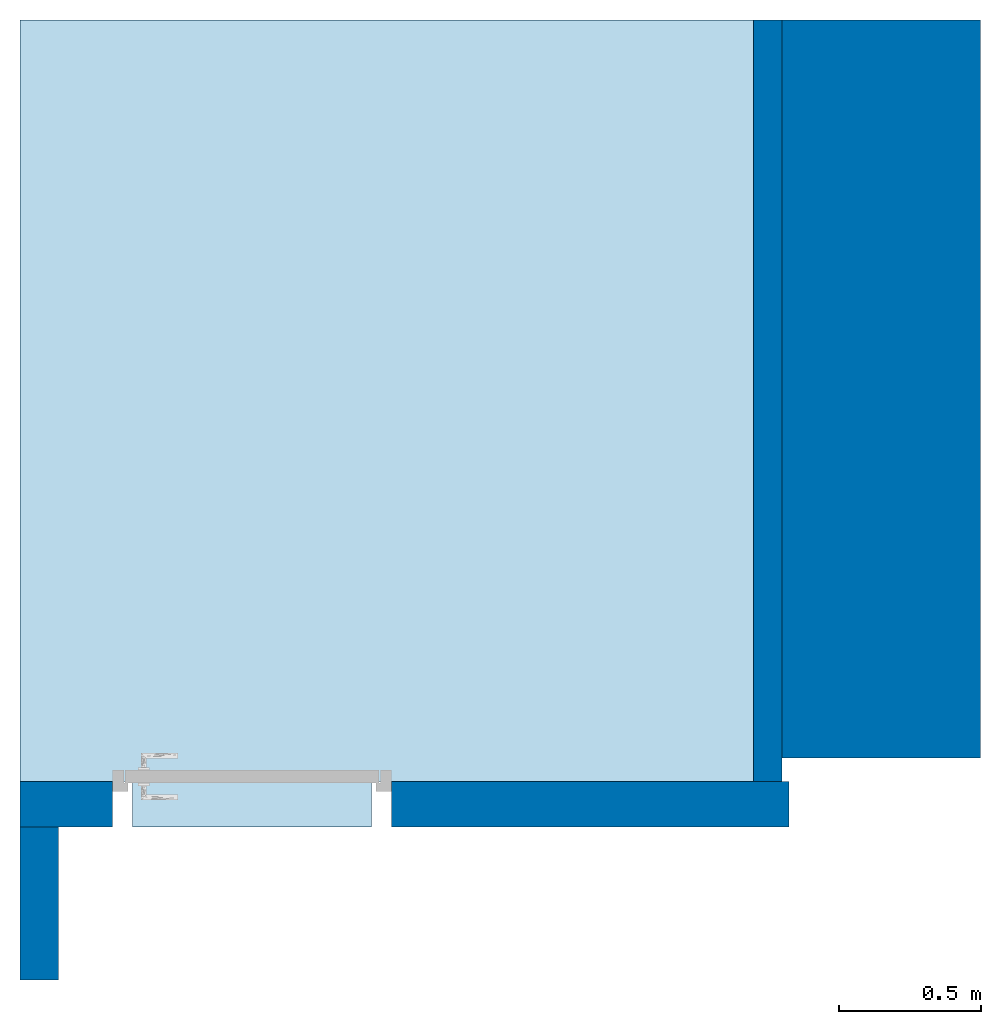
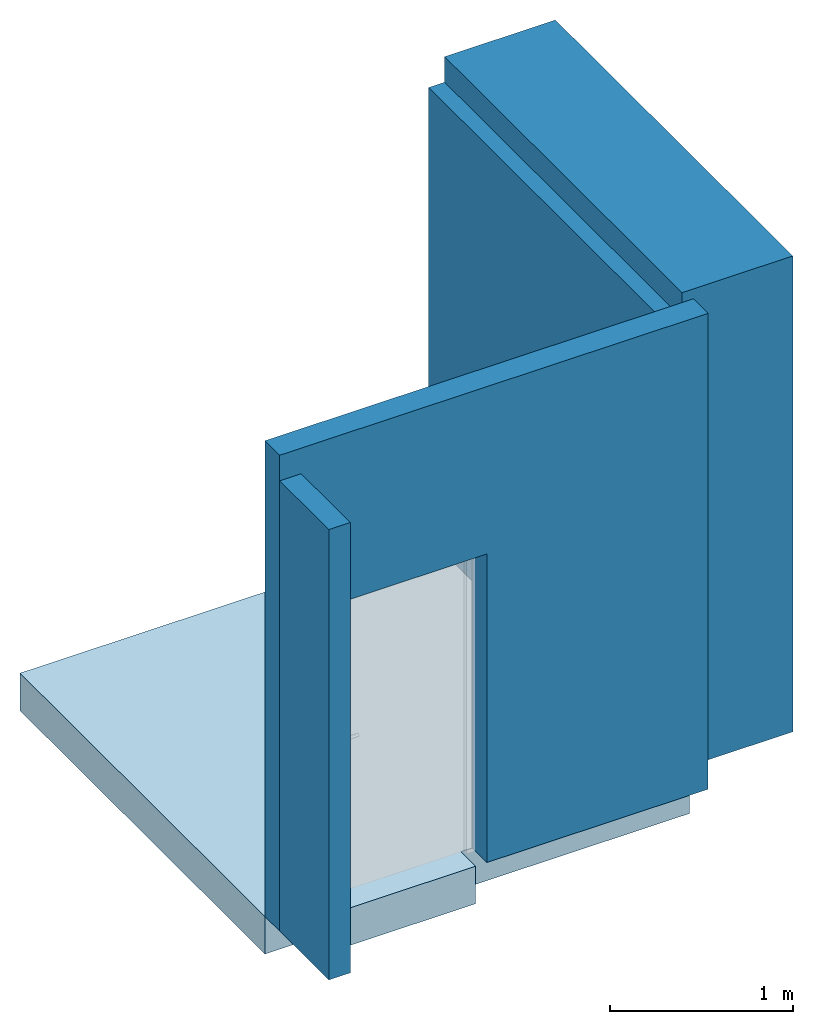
# One storey, incomplete: 4 walls, 1 slab, 1 opening.
"""IFC2X3 building model written with IfcOpenShell, lengths in metres."""

from ifc_helpers import new_model, entity, si_unit, converted_unit, derived_unit, direction, frame, frame_2d, origin, place, context, subcontext, project, spatial, polyline, rectangle, outline, extrude, material, layer, layer_set, layer_usage, type_object, element, save


model = new_model("IFC2X3")

# Units and contexts
model_context = context("Model", 3, precision=1e-05, world=origin(), true_north=direction((6.12303176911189e-17, 1.0)))
plan_context = context("Plan", 3, precision=1e-05, world=origin(), true_north=direction((6.12303176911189e-17, 1.0)))
body_context = subcontext(model_context, "Body", "Model", "MODEL_VIEW")
ifc_project = project(units=[si_unit("LENGTHUNIT", "METRE"), si_unit("AREAUNIT", "SQUARE_METRE"), si_unit("VOLUMEUNIT", "CUBIC_METRE"), converted_unit("PLANEANGLEUNIT", "DEGREE", entity("IfcRatioMeasure", 0.0174532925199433), si_unit("PLANEANGLEUNIT", "RADIAN"), dimensions=[0, 0, 0, 0, 0, 0, 0]), si_unit("MASSUNIT", "GRAM", prefix="KILO"), derived_unit("MASSDENSITYUNIT", [(si_unit("MASSUNIT", "GRAM", prefix="KILO"), 1), (si_unit("LENGTHUNIT", "METRE"), -3)]), derived_unit("MOMENTOFINERTIAUNIT", [(si_unit("LENGTHUNIT", "METRE"), 4)]), si_unit("TIMEUNIT", "SECOND"), si_unit("FREQUENCYUNIT", "HERTZ"), si_unit("THERMODYNAMICTEMPERATUREUNIT", "DEGREE_CELSIUS"), derived_unit("THERMALTRANSMITTANCEUNIT", [(si_unit("MASSUNIT", "GRAM", prefix="KILO"), 1), (si_unit("THERMODYNAMICTEMPERATUREUNIT", "KELVIN"), -1), (si_unit("TIMEUNIT", "SECOND"), -3)]), derived_unit("VOLUMETRICFLOWRATEUNIT", [(si_unit("LENGTHUNIT", "METRE"), 3), (si_unit("TIMEUNIT", "SECOND"), -1)]), derived_unit("MASSFLOWRATEUNIT", [(si_unit("MASSUNIT", "GRAM", prefix="KILO"), 1), (si_unit("TIMEUNIT", "SECOND"), -1)]), derived_unit("ROTATIONALFREQUENCYUNIT", [(si_unit("TIMEUNIT", "SECOND"), -1)]), si_unit("ELECTRICCURRENTUNIT", "AMPERE"), si_unit("ELECTRICVOLTAGEUNIT", "VOLT"), si_unit("POWERUNIT", "WATT"), si_unit("FORCEUNIT", "NEWTON", prefix="KILO"), si_unit("ILLUMINANCEUNIT", "LUX"), si_unit("LUMINOUSFLUXUNIT", "LUMEN"), si_unit("LUMINOUSINTENSITYUNIT", "CANDELA"), derived_unit("USERDEFINED", [(si_unit("MASSUNIT", "GRAM", prefix="KILO"), -1), (si_unit("LENGTHUNIT", "METRE"), -2), (si_unit("TIMEUNIT", "SECOND"), 3), (si_unit("LUMINOUSFLUXUNIT", "LUMEN"), 1)]), derived_unit("SOUNDPOWERUNIT", [(si_unit("MASSUNIT", "GRAM", prefix="KILO"), 1), (si_unit("LENGTHUNIT", "METRE"), 2), (si_unit("TIMEUNIT", "SECOND"), -3)]), derived_unit("SOUNDPRESSUREUNIT", [(si_unit("MASSUNIT", "GRAM", prefix="KILO"), 1), (si_unit("LENGTHUNIT", "METRE"), -1), (si_unit("TIMEUNIT", "SECOND"), -2)]), derived_unit("LINEARVELOCITYUNIT", [(si_unit("LENGTHUNIT", "METRE"), 1), (si_unit("TIMEUNIT", "SECOND"), -1)]), si_unit("PRESSUREUNIT", "PASCAL"), derived_unit("USERDEFINED", [(si_unit("LENGTHUNIT", "METRE"), -2), (si_unit("MASSUNIT", "GRAM", prefix="KILO"), 1), (si_unit("TIMEUNIT", "SECOND"), -2)]), derived_unit("LINEARFORCEUNIT", [(si_unit("MASSUNIT", "GRAM", prefix="KILO"), 1), (si_unit("LENGTHUNIT", "METRE"), 1), (si_unit("TIMEUNIT", "SECOND"), -2), (si_unit("LENGTHUNIT", "METRE"), -1)]), derived_unit("PLANARFORCEUNIT", [(si_unit("MASSUNIT", "GRAM", prefix="KILO"), 1), (si_unit("LENGTHUNIT", "METRE"), 1), (si_unit("TIMEUNIT", "SECOND"), -2), (si_unit("LENGTHUNIT", "METRE"), -2)])], contexts=[model_context, plan_context])

# Site, building, storey
site_placement = place(None, frame((-11.0823275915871, 23.8300534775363, 0.0)))
site = spatial("IfcSite", under=ifc_project, at=site_placement, Name="Default", CompositionType="ELEMENT")
building_placement = place(site_placement, origin())
building = spatial("IfcBuilding", under=site, at=building_placement, Name="Englische Kirche", CompositionType="ELEMENT")
storey_placement = place(building_placement, frame((0.0, 0.0, 5.11)))
storey = spatial("IfcBuildingStorey", under=building, at=storey_placement, Name="Ebene 3 Belfry FFL Stage 2 1888", CompositionType="ELEMENT", Elevation=5.11)

# Slab
ifc_material_1 = material(Name="Ortbeton - bewehrt")
ifc_layer_1 = layer(ifc_material_1, 0.25)
ifc_layer_set_1 = layer_set([ifc_layer_1], Name="Geschossdecke:STB 250")
ifc_layer_usage_1 = layer_usage(ifc_layer_set_1, "AXIS3", "POSITIVE", 0.0)
slab_type = type_object("IfcSlabType", Name="Geschossdecke:STB 250", PredefinedType="FLOOR", material=ifc_layer_set_1)
slab_placement = place(storey_placement, origin())
element("IfcSlab", 1, at=slab_placement, inside=storey, type_object=slab_type, material=ifc_layer_usage_1, Name="Geschossdecke:STB 250", ObjectType="Geschossdecke:STB 250", PredefinedType="FLOOR", context=body_context, shape_type="SweptSolid", body=[
    extrude(outline(polyline([(-0.628499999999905, -1.07637499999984), (2.04549999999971, -1.07637499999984), (2.04549999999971, 1.59912499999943), (-0.628499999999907, 1.59912499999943), (-0.628499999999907, 0.158625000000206), (-0.788499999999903, 0.158625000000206), (-0.788499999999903, -0.681374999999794), (-0.628499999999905, -0.681374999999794), (-0.628499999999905, -1.07637499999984)])), frame((0.784832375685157, 12.5702189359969, 0.0), z_axis=(0.0, 0.0, -1.0), x_axis=(0.0, 1.0, 0.0)), (0.0, 0.0, 1.0), 0.25),
])

# Wall
ifc_material_2 = material(Name="Mauerwerk - Quoin Brickwerk")
ifc_layer_2 = layer(ifc_material_2, 0.448)
ifc_material_3 = material(Name="Mauerwerk - Sichtmauerwerk_72x265 english bond Stage2")
ifc_layer_3 = layer(ifc_material_3, 0.25)
ifc_layer_set_2 = layer_set([ifc_layer_2, ifc_layer_3], Name="Basiswand:Ziegel 698-farbig 1sp 72x265 English bond quoins Tower Phase 2")
ifc_layer_usage_2 = layer_usage(ifc_layer_set_2, "AXIS2", "NEGATIVE", 0.349)
wall_type_1 = type_object("IfcWallType", Name="Basiswand:Ziegel 698-farbig 1sp 72x265 English bond quoins Tower Phase 2", PredefinedType="STANDARD", material=ifc_layer_set_2)
wall_1_placement = place(storey_placement, frame((2.73295737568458, 14.6157189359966, 0.0), z_axis=(0.0, 0.0, 1.0), x_axis=(0.0, -1.0, 0.0)))
element("IfcWallStandardCase", 2, at=wall_1_placement, inside=storey, type_object=wall_type_1, material=ifc_layer_usage_2, Name="Basiswand:Ziegel 698-farbig 1sp 72x265 English bond quoins Tower Phase 2", ObjectType="Basiswand:Ziegel 698-farbig 1sp 72x265 English bond quoins Tower Phase 2", context=body_context, shape_type="SweptSolid", body=[
    extrude(rectangle(XDim=2.59199995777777, YDim=0.698, at=frame_2d((1.29599997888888, -1.38777878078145e-16), x_axis=(-1.0, 0.0))), origin(), (0.0, 0.0, 1.0), 3.17),
])

# Wall, opening
ifc_material_4 = material(Name="Mauerwerk - Kalkputz-white")
ifc_layer_4 = layer(ifc_material_4, 0.02)
ifc_material_5 = material(Name="Mauerwerk - Sichtmauerwerk_72x265 english bond Stage 3")
ifc_layer_5 = layer(ifc_material_5, 0.12)
ifc_layer_6 = layer(ifc_material_4, 0.02)
ifc_layer_set_3 = layer_set([ifc_layer_4, ifc_layer_5, ifc_layer_6], Name="Basiswand:Ziegel 160 farbig putz 2s Tower lobby Phase 2")
ifc_layer_usage_3 = layer_usage(ifc_layer_set_3, "AXIS2", "NEGATIVE", 0.08)
wall_type_2 = type_object("IfcWallType", Name="Basiswand:Ziegel 160 farbig putz 2s Tower lobby Phase 2", PredefinedType="STANDARD", material=ifc_layer_set_3)
wall_2_placement = place(storey_placement, frame((-0.291542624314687, 11.861718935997, 0.0)))
wall_2 = element("IfcWallStandardCase", 3, at=wall_2_placement, inside=storey, type_object=wall_type_2, material=ifc_layer_usage_3, Name="Basiswand:Ziegel 160 farbig putz 2s Tower lobby Phase 2", ObjectType="Basiswand:Ziegel 160 farbig putz 2s Tower lobby Phase 2", context=body_context, shape_type="SweptSolid", body=[
    extrude(rectangle(XDim=2.7, YDim=0.16, at=frame_2d((1.35, -1.06858966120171e-15), x_axis=(1.0, 0.0))), origin(), (0.0, 0.0, 1.0), 3.17),
])
opening_placement = place(wall_2_placement, frame((0.324999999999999, -0.0800000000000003, -0.180000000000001)))
element("IfcOpeningElement", 4, at=opening_placement, cuts=wall_2, Name="TU DF 1 - Pfostenstock flächenbündig:Belfry Door:1", ObjectType="Opening", context=body_context, shape_type="SweptSolid", body=[
    extrude(rectangle(XDim=2.235, YDim=0.98, at=frame_2d((1.1175, 0.49), x_axis=(-1.0, 0.0))), frame((0.0, 0.0, 0.0), z_axis=(0.0, 1.0, 0.0), x_axis=(0.0, 0.0, 1.0)), (0.0, 0.0, 1.0), 0.16),
])

# Walls
ifc_material_6 = material(Name="Mauerwerk - Ziegel")
ifc_layer_7 = layer(ifc_material_6, 0.1)
ifc_layer_set_4 = layer_set([ifc_layer_7], Name="Basiswand:Ziegel 100")
ifc_layer_usage_4 = layer_usage(ifc_layer_set_4, "AXIS2", "NEGATIVE", 0.05)
wall_type_3 = type_object("IfcWallType", Name="Basiswand:Ziegel 100", PredefinedType="STANDARD", material=ifc_layer_set_4)
wall_3_placement = place(storey_placement, frame((2.33395737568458, 14.6157189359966, 0.0), z_axis=(0.0, 0.0, 1.0), x_axis=(0.0, -1.0, 0.0)))
element("IfcWallStandardCase", 5, at=wall_3_placement, inside=storey, type_object=wall_type_3, material=ifc_layer_usage_4, Name="Basiswand:Ziegel 100", ObjectType="Basiswand:Ziegel 100", context=body_context, shape_type="SweptSolid", body=[
    extrude(rectangle(XDim=2.67399999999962, YDim=0.1, at=frame_2d((1.33699999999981, -3.46944695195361e-18), x_axis=(-1.0, 0.0))), origin(), (0.0, 0.0, 1.0), 3.0),
])
ifc_layer_8 = layer(ifc_material_4, 0.015)
ifc_layer_9 = layer(ifc_material_6, 0.12)
ifc_layer_set_5 = layer_set([ifc_layer_8, ifc_layer_9], Name="Basiswand:Ziegel 135")
ifc_layer_usage_5 = layer_usage(ifc_layer_set_5, "AXIS2", "POSITIVE", -0.0675)
wall_type_4 = type_object("IfcWallType", Name="Basiswand:Ziegel 135", PredefinedType="STANDARD", material=ifc_layer_set_5)
wall_4_placement = place(storey_placement, frame((-0.224042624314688, 11.2447732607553, 0.0), z_axis=(0.0, 0.0, 1.0), x_axis=(0.0, 1.0, 0.0)))
element("IfcWallStandardCase", 6, at=wall_4_placement, inside=storey, type_object=wall_type_4, material=ifc_layer_usage_5, Name="Basiswand:Ziegel 135", ObjectType="Basiswand:Ziegel 135", context=body_context, shape_type="SweptSolid", body=[
    extrude(rectangle(XDim=0.536945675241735, YDim=0.135, at=frame_2d((0.268472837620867, 0.0), x_axis=(-1.0, 0.0))), origin(), (0.0, 0.0, 1.0), 3.0),
])

save(model, "model.ifc")
